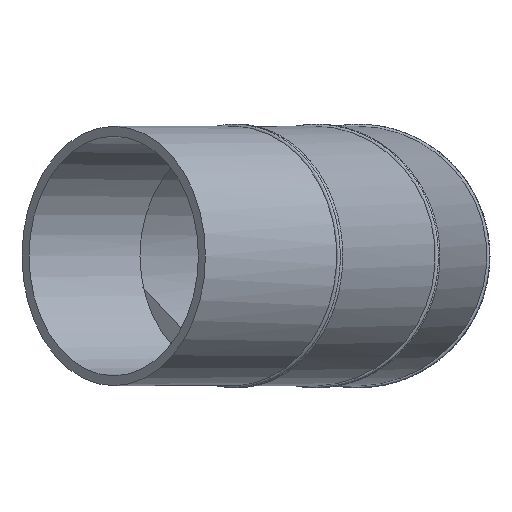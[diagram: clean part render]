
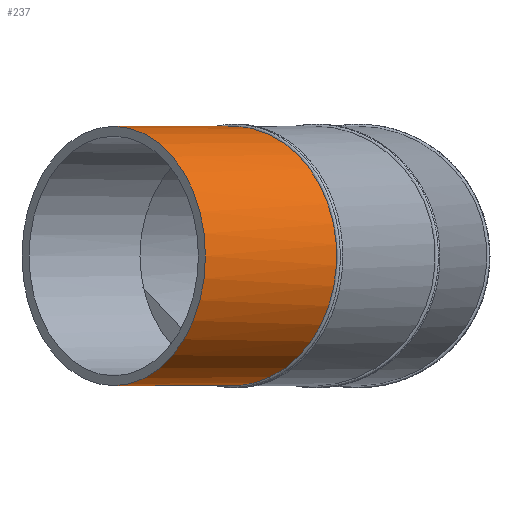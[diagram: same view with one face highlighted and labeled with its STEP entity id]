
A CAD part, front view. The second image highlights one B-rep face of the part: STEP entity #237.
In plain terms, the highlighted cylindrical face has radius 250 mm (diameter 500 mm), a full revolution.
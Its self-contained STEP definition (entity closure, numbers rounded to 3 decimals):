
#41=B_SPLINE_CURVE_WITH_KNOTS('',3,(#403,#404,#405,#406,#407,#408,#409,
#410,#411,#412,#413,#414,#415,#416,#417,#418,#419,#420,#421,#422,#423,#424,
#425,#426,#427,#428,#429,#430,#431,#432,#433,#434,#435,#436,#437,#438,#439,
#440,#441,#442,#443,#444,#445,#446,#447,#448,#449,#450,#451,#452,#453,#454,
#455,#456,#457,#458,#459,#460,#461,#462,#463,#464,#465,#466,#467,#468,#469,
#470,#471,#472,#473,#474,#475,#476,#477,#478,#479,#480,#481,#482,#483,#484,
#485,#486,#487,#488,#489,#490,#491,#492,#493,#494,#495,#496,#497),
 .UNSPECIFIED.,.T.,.F.,(1,1,1,1,1,1,1,1,1,1,1,1,1,1,1,1,1,1,1,1,1,1,1,1,
1,1,1,1,1,1,1,1,1,1,1,1,1,1,1,1,1,1,1,1,1,1,1,1,1,1,1,1,1,1,1,1,1,1,1,1,
1,1,1,1,1,1,1,1,1,1,1,1,1,1,1,1,1,1,1,1,1,1,1,1,1,1,1,1,1,1,1,1,1,1,1,1,
1,1,1),(-0.037,-0.025,-0.012,0.,
0.012,0.025,0.05,0.062,
0.074,0.099,0.124,0.149,
0.161,0.173,0.198,0.223,
0.235,0.248,0.272,0.297,
0.309,0.322,0.334,0.347,
0.359,0.371,0.396,0.421,0.446,
0.47,0.483,0.495,0.507,
0.52,0.545,0.569,0.582,
0.594,0.606,0.619,0.631,
0.644,0.656,0.668,0.693,
0.705,0.718,0.743,0.767,
0.78,0.792,0.817,0.842,
0.866,0.879,0.891,0.903,
0.916,0.941,0.965,0.99,
1.015,1.027,1.04,1.052,1.064,
1.089,1.114,1.126,1.139,1.151,
1.163,1.176,1.188,1.213,1.238,
1.25,1.262,1.287,1.312,1.324,
1.337,1.361,1.386,1.411,1.423,
1.436,1.448,1.46,1.485,1.51,
1.535,1.547,1.559,1.572,1.584,
1.596,1.609,1.634),.UNSPECIFIED.);
#50=CYLINDRICAL_SURFACE('',#287,250.);
#82=ORIENTED_EDGE('',*,*,#134,.T.);
#83=ORIENTED_EDGE('',*,*,#127,.F.);
#127=EDGE_CURVE('',#153,#153,#173,.T.);
#134=EDGE_CURVE('',#160,#160,#41,.T.);
#153=VERTEX_POINT('',#388);
#160=VERTEX_POINT('',#498);
#173=CIRCLE('',#279,250.);
#179=EDGE_LOOP('',(#82));
#180=EDGE_LOOP('',(#83));
#207=FACE_BOUND('',#179,.T.);
#208=FACE_BOUND('',#180,.T.);
#237=ADVANCED_FACE('',(#207,#208),#50,.T.);
#279=AXIS2_PLACEMENT_3D('',#387,#317,#318);
#287=AXIS2_PLACEMENT_3D('',#402,#333,#334);
#317=DIRECTION('',(0.,1.,0.));
#318=DIRECTION('',(-1.,0.,0.));
#333=DIRECTION('',(0.,1.,0.));
#334=DIRECTION('',(-1.,0.,0.));
#387=CARTESIAN_POINT('',(1180.48,177.5,0.));
#388=CARTESIAN_POINT('',(930.48,177.5,0.));
#402=CARTESIAN_POINT('',(1180.48,-188.326,0.));
#403=CARTESIAN_POINT('',(930.684,-114.492,-12.359));
#404=CARTESIAN_POINT('',(930.378,-114.452,-0.005));
#405=CARTESIAN_POINT('',(930.685,-114.492,12.381));
#406=CARTESIAN_POINT('',(931.905,-114.653,28.8));
#407=CARTESIAN_POINT('',(934.347,-114.973,45.137));
#408=CARTESIAN_POINT('',(937.978,-115.451,61.187));
#409=CARTESIAN_POINT('',(942.409,-116.033,77.078));
#410=CARTESIAN_POINT('',(949.375,-116.948,96.403));
#411=CARTESIAN_POINT('',(960.017,-118.347,118.738));
#412=CARTESIAN_POINT('',(970.614,-119.739,136.288));
#413=CARTESIAN_POINT('',(980.144,-120.992,149.72));
#414=CARTESIAN_POINT('',(990.241,-122.319,162.558));
#415=CARTESIAN_POINT('',(1003.913,-124.116,177.541));
#416=CARTESIAN_POINT('',(1018.96,-126.094,191.12));
#417=CARTESIAN_POINT('',(1031.833,-127.787,201.133));
#418=CARTESIAN_POINT('',(1045.275,-129.554,210.564));
#419=CARTESIAN_POINT('',(1062.804,-131.859,221.027));
#420=CARTESIAN_POINT('',(1081.359,-134.3,229.765));
#421=CARTESIAN_POINT('',(1096.59,-136.304,235.611));
#422=CARTESIAN_POINT('',(1108.238,-137.836,239.44));
#423=CARTESIAN_POINT('',(1120.073,-139.393,242.696));
#424=CARTESIAN_POINT('',(1132.012,-140.964,245.358));
#425=CARTESIAN_POINT('',(1144.07,-142.551,247.436));
#426=CARTESIAN_POINT('',(1160.32,-144.69,249.42));
#427=CARTESIAN_POINT('',(1180.669,-147.369,250.401));
#428=CARTESIAN_POINT('',(1205.216,-150.601,249.173));
#429=CARTESIAN_POINT('',(1229.192,-153.758,245.605));
#430=CARTESIAN_POINT('',(1248.786,-156.339,240.726));
#431=CARTESIAN_POINT('',(1264.202,-158.37,235.67));
#432=CARTESIAN_POINT('',(1275.664,-159.88,231.28));
#433=CARTESIAN_POINT('',(1286.89,-161.359,226.333));
#434=CARTESIAN_POINT('',(1301.488,-163.283,219.03));
#435=CARTESIAN_POINT('',(1319.117,-165.607,208.521));
#436=CARTESIAN_POINT('',(1335.557,-167.773,196.389));
#437=CARTESIAN_POINT('',(1348.021,-169.417,185.69));
#438=CARTESIAN_POINT('',(1356.939,-170.593,177.235));
#439=CARTESIAN_POINT('',(1365.426,-171.712,168.36));
#440=CARTESIAN_POINT('',(1373.492,-172.775,159.05));
#441=CARTESIAN_POINT('',(1381.094,-173.777,149.347));
#442=CARTESIAN_POINT('',(1388.191,-174.714,139.307));
#443=CARTESIAN_POINT('',(1394.796,-175.585,128.916));
#444=CARTESIAN_POINT('',(1402.937,-176.658,114.592));
#445=CARTESIAN_POINT('',(1409.966,-177.586,99.773));
#446=CARTESIAN_POINT('',(1415.915,-178.37,84.387));
#447=CARTESIAN_POINT('',(1421.064,-179.049,68.819));
#448=CARTESIAN_POINT('',(1426.019,-179.703,49.078));
#449=CARTESIAN_POINT('',(1429.033,-180.101,28.951));
#450=CARTESIAN_POINT('',(1430.263,-180.263,12.626));
#451=CARTESIAN_POINT('',(1430.688,-180.319,-3.882));
#452=CARTESIAN_POINT('',(1429.694,-180.188,-24.409));
#453=CARTESIAN_POINT('',(1426.062,-179.709,-48.918));
#454=CARTESIAN_POINT('',(1421.06,-179.049,-68.848));
#455=CARTESIAN_POINT('',(1415.873,-178.365,-84.505));
#456=CARTESIAN_POINT('',(1411.425,-177.778,-95.993));
#457=CARTESIAN_POINT('',(1406.419,-177.118,-107.25));
#458=CARTESIAN_POINT('',(1398.984,-176.137,-121.96));
#459=CARTESIAN_POINT('',(1388.411,-174.743,-139.526));
#460=CARTESIAN_POINT('',(1373.64,-172.794,-159.343));
#461=CARTESIAN_POINT('',(1357.243,-170.633,-177.344));
#462=CARTESIAN_POINT('',(1342.216,-168.651,-190.936));
#463=CARTESIAN_POINT('',(1329.387,-166.96,-200.939));
#464=CARTESIAN_POINT('',(1319.328,-165.634,-208.018));
#465=CARTESIAN_POINT('',(1308.953,-164.267,-214.58));
#466=CARTESIAN_POINT('',(1294.74,-162.394,-222.624));
#467=CARTESIAN_POINT('',(1276.197,-159.95,-231.384));
#468=CARTESIAN_POINT('',(1256.996,-157.421,-238.248));
#469=CARTESIAN_POINT('',(1241.211,-155.341,-242.615));
#470=CARTESIAN_POINT('',(1229.268,-153.768,-245.295));
#471=CARTESIAN_POINT('',(1217.219,-152.182,-247.387));
#472=CARTESIAN_POINT('',(1205.046,-150.579,-248.891));
#473=CARTESIAN_POINT('',(1192.825,-148.969,-249.795));
#474=CARTESIAN_POINT('',(1176.534,-146.825,-250.202));
#475=CARTESIAN_POINT('',(1156.081,-144.132,-249.208));
#476=CARTESIAN_POINT('',(1135.926,-141.48,-246.236));
#477=CARTESIAN_POINT('',(1119.941,-139.376,-242.663));
#478=CARTESIAN_POINT('',(1104.253,-137.312,-238.337));
#479=CARTESIAN_POINT('',(1085.212,-134.807,-231.559));
#480=CARTESIAN_POINT('',(1066.909,-132.399,-222.973));
#481=CARTESIAN_POINT('',(1052.725,-130.534,-215.009));
#482=CARTESIAN_POINT('',(1038.827,-128.706,-206.282));
#483=CARTESIAN_POINT('',(1022.369,-126.542,-194.171));
#484=CARTESIAN_POINT('',(1004.033,-124.131,-177.675));
#485=CARTESIAN_POINT('',(990.233,-122.318,-162.555));
#486=CARTESIAN_POINT('',(980.065,-120.981,-149.615));
#487=CARTESIAN_POINT('',(972.952,-120.046,-139.58));
#488=CARTESIAN_POINT('',(966.339,-119.177,-129.206));
#489=CARTESIAN_POINT('',(958.18,-118.105,-114.895));
#490=CARTESIAN_POINT('',(949.358,-116.946,-96.364));
#491=CARTESIAN_POINT('',(940.972,-115.844,-73.07));
#492=CARTESIAN_POINT('',(935.954,-115.185,-53.157));
#493=CARTESIAN_POINT('',(933.114,-114.812,-36.895));
#494=CARTESIAN_POINT('',(931.597,-114.612,-24.655));
#495=CARTESIAN_POINT('',(930.684,-114.492,-12.359));
#496=CARTESIAN_POINT('',(930.378,-114.452,-0.005));
#497=CARTESIAN_POINT('',(930.685,-114.492,12.381));
#498=CARTESIAN_POINT('',(930.48,-114.465,0.));
